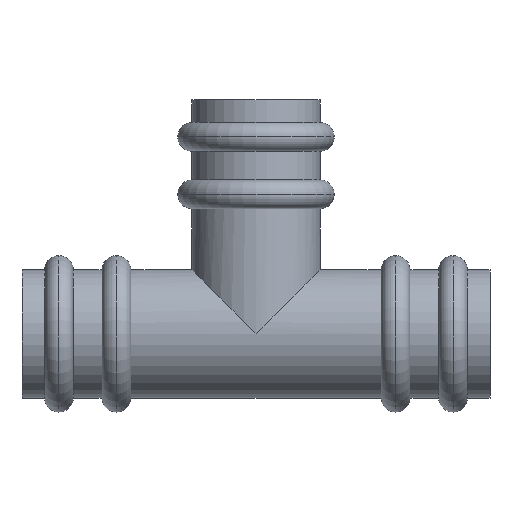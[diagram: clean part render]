
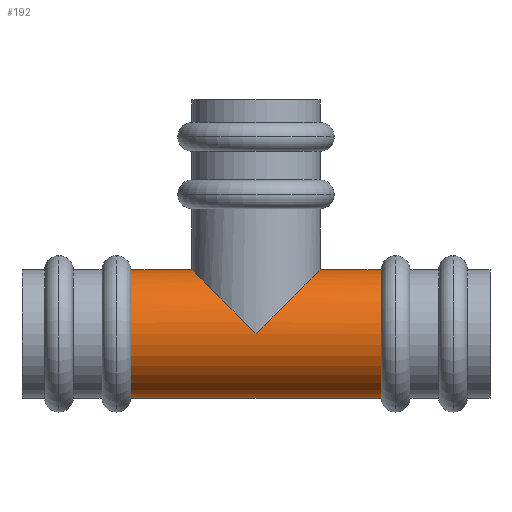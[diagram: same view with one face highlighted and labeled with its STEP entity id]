
A CAD part, front view. The second image highlights one B-rep face of the part: STEP entity #192.
In plain terms, the highlighted cylindrical face has radius 15.65 mm (diameter 31.3 mm), a partial arc.
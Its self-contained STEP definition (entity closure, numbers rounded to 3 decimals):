
#192=ADVANCED_FACE('',(#472),#473,.T.);
#472=FACE_OUTER_BOUND('',#864,.T.);
#473=CYLINDRICAL_SURFACE('',#865,15.65);
#864=EDGE_LOOP('',(#1370,#1371,#1372,#1373,#1374,#1375,#1376));
#865=AXIS2_PLACEMENT_3D('',#1377,#1378,#1379);
#1370=ORIENTED_EDGE('',*,*,#2243,.F.);
#1371=ORIENTED_EDGE('',*,*,#2244,.F.);
#1372=ORIENTED_EDGE('',*,*,#2245,.F.);
#1373=ORIENTED_EDGE('',*,*,#2246,.T.);
#1374=ORIENTED_EDGE('',*,*,#2247,.T.);
#1375=ORIENTED_EDGE('',*,*,#2248,.F.);
#1376=ORIENTED_EDGE('',*,*,#2249,.F.);
#1377=CARTESIAN_POINT('',(47.,0.0,0.));
#1378=DIRECTION('',(-1.0,0.0,0.0));
#1379=DIRECTION('',(0.0,0.0,-1.0));
#2243=EDGE_CURVE('',#2657,#2658,#2659,.T.);
#2244=EDGE_CURVE('',#2660,#2657,#2661,.T.);
#2245=EDGE_CURVE('',#2662,#2660,#2663,.T.);
#2246=EDGE_CURVE('',#2662,#2664,#2665,.T.);
#2247=EDGE_CURVE('',#2664,#2666,#2667,.T.);
#2248=EDGE_CURVE('',#2668,#2666,#2669,.T.);
#2249=EDGE_CURVE('',#2658,#2668,#2670,.T.);
#2657=VERTEX_POINT('',#3175);
#2658=VERTEX_POINT('',#3176);
#2659=LINE('',#3177,#3178);
#2660=VERTEX_POINT('',#3179);
#2661=CIRCLE('',#3180,15.65);
#2662=VERTEX_POINT('',#3181);
#2663=LINE('',#3182,#3183);
#2664=VERTEX_POINT('',#3184);
#2665=ELLIPSE('',#3185,22.132,15.65);
#2666=VERTEX_POINT('',#3186);
#2667=ELLIPSE('',#3187,22.132,15.65);
#2668=VERTEX_POINT('',#3188);
#2669=LINE('',#3189,#3190);
#2670=CIRCLE('',#3191,15.65);
#3175=CARTESIAN_POINT('',(87.5,0.,-15.65));
#3176=CARTESIAN_POINT('',(26.5,0.,-15.65));
#3177=CARTESIAN_POINT('',(47.,0.,-15.65));
#3178=VECTOR('',#3810,1.0);
#3179=CARTESIAN_POINT('',(87.5,0.,15.65));
#3180=AXIS2_PLACEMENT_3D('',#3811,#3812,#3813);
#3181=CARTESIAN_POINT('',(72.65,0.,15.65));
#3182=CARTESIAN_POINT('',(47.,0.,15.65));
#3183=VECTOR('',#3814,1.0);
#3184=CARTESIAN_POINT('',(57.,-15.65,0.0));
#3185=AXIS2_PLACEMENT_3D('',#3815,#3816,#3817);
#3186=CARTESIAN_POINT('',(41.35,0.,15.65));
#3187=AXIS2_PLACEMENT_3D('',#3818,#3819,#3820);
#3188=CARTESIAN_POINT('',(26.5,0.,15.65));
#3189=CARTESIAN_POINT('',(47.,0.,15.65));
#3190=VECTOR('',#3821,1.0);
#3191=AXIS2_PLACEMENT_3D('',#3822,#3823,#3824);
#3810=DIRECTION('',(-1.0,0.0,0.0));
#3811=CARTESIAN_POINT('',(87.5,0.0,0.));
#3812=DIRECTION('',(1.0,0.0,-0.0));
#3813=DIRECTION('',(0.0,0.0,1.0));
#3814=DIRECTION('',(1.0,-0.0,-0.0));
#3815=CARTESIAN_POINT('',(57.,0.0,0.));
#3816=DIRECTION('',(0.707,0.0,-0.707));
#3817=DIRECTION('',(0.707,0.0,0.707));
#3818=CARTESIAN_POINT('',(57.,0.0,0.));
#3819=DIRECTION('',(-0.707,-0.0,-0.707));
#3820=DIRECTION('',(0.707,0.0,-0.707));
#3821=DIRECTION('',(1.0,-0.0,-0.0));
#3822=CARTESIAN_POINT('',(26.5,0.0,0.));
#3823=DIRECTION('',(-1.0,0.0,0.));
#3824=DIRECTION('',(0.,0.0,-1.0));
